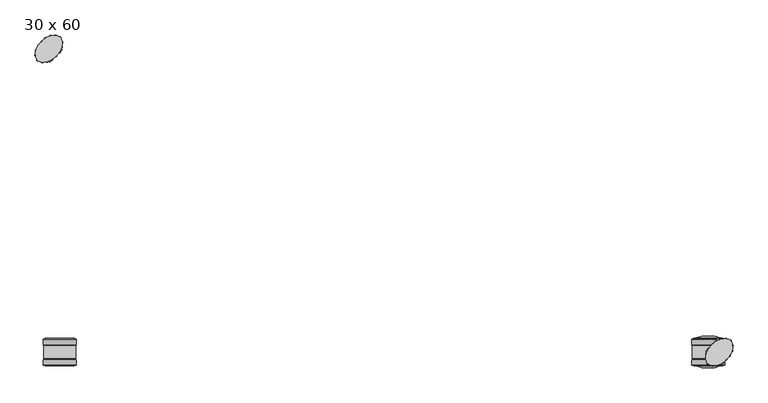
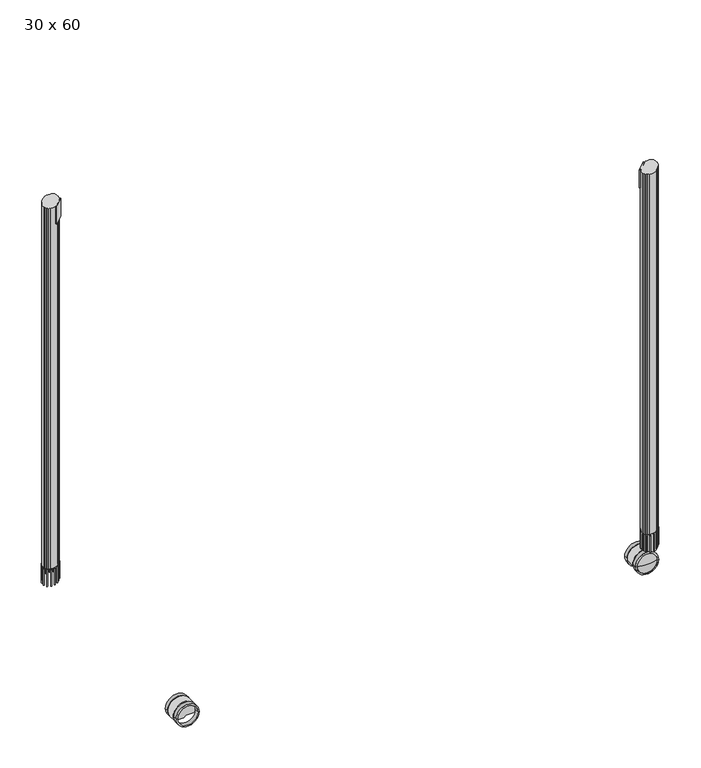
"""IFC4 building model written with IfcOpenShell, lengths in millimetres: furniture geometry, SmithSystem_AM_Desking_Education_Interchange_Student_Activity : 30 x 60."""

from ifc_helpers import new_model, si_unit, point, frame, frame_2d, origin, place, context, project, spatial, polyline, circle_curve, ellipse_curve, trimmed, segment, composite_curve, outline, extrude, source, transform, mapped, element, save
from ifc_brep_helpers import plane_surface, cylinder_surface, revolved_surface, advanced_brep


def furniture_30_x_60_ff9c13ed(model_context):
    return source(origin(), model_context, "Body", "SolidModel", [
        extrude(outline(composite_curve([segment(trimmed(circle_curve(frame_2d((36.1138255, 717.7012908)), 1.27), [point((35.2157999, 716.8032652))], [point((37.0118511, 718.5993164))], False, "CARTESIAN"), True, "CONTINUOUS"), segment(polyline([(37.0118511, 718.5993164), (36.1138255, 717.7012908), (35.2157999, 716.8032652)]), True, "CONTINUOUS")], self_intersect=False)), frame((0.0, 0.0, 67.2639757), z_axis=(0.0, 0.0, 1.0), x_axis=(1.0, 0.0, 0.0)), (0.0, 0.0, 1.0), 52.9554897),
        extrude(outline(composite_curve([segment(trimmed(circle_curve(frame_2d((27.2784407, 678.3403563)), 1.27), [point((28.1764663, 677.4423306))], [point((26.3804151, 679.2383819))], False, "CARTESIAN"), True, "CONTINUOUS"), segment(polyline([(26.3804151, 679.2383819), (27.2784407, 678.3403563), (28.1764663, 677.4423306)]), True, "CONTINUOUS")], self_intersect=False)), frame((0.0, 0.0, 67.2639757), z_axis=(0.0, 0.0, 1.0), x_axis=(1.0, 0.0, 0.0)), (0.0, 0.0, 1.0), 52.9554897),
        extrude(outline(composite_curve([segment(polyline([(76.3727856, 725.63865), (75.47476, 726.5366756), (74.5767344, 727.4347012)]), True, "CONTINUOUS"), segment(trimmed(circle_curve(frame_2d((75.47476, 726.5366756)), 1.27), [point((74.5767344, 727.4347012))], [point((76.3727856, 725.63865))], False, "CARTESIAN"), True, "CONTINUOUS")], self_intersect=False)), frame((0.0, 0.0, 67.2639757), z_axis=(0.0, 0.0, 1.0), x_axis=(1.0, 0.0, 0.0)), (0.0, 0.0, 1.0), 52.9554897),
        extrude(outline(composite_curve([segment(polyline([(66.874417, 730.5560515), (65.6084721, 730.6574596), (64.3425272, 730.7588676)]), True, "CONTINUOUS"), segment(trimmed(circle_curve(frame_2d((65.6084721, 730.6574596)), 1.27), [point((64.3425272, 730.7588676))], [point((66.874417, 730.5560515))], False, "CARTESIAN"), True, "CONTINUOUS")], self_intersect=False)), frame((0.0, 0.0, 67.2639757), z_axis=(0.0, 0.0, 1.0), x_axis=(1.0, 0.0, 0.0)), (0.0, 0.0, 1.0), 52.9554897),
        extrude(outline(composite_curve([segment(polyline([(55.7954927, 730.039674), (54.5655031, 729.7234059), (53.3355135, 729.4071377)]), True, "CONTINUOUS"), segment(trimmed(circle_curve(frame_2d((54.5655031, 729.7234059)), 1.27), [point((53.3355135, 729.4071377))], [point((55.7954927, 730.039674))], False, "CARTESIAN"), True, "CONTINUOUS")], self_intersect=False)), frame((0.0, 0.0, 67.2639757), z_axis=(0.0, 0.0, 1.0), x_axis=(1.0, 0.0, 0.0)), (0.0, 0.0, 1.0), 52.9554897),
        extrude(outline(composite_curve([segment(polyline([(45.4570451, 725.8418329), (44.409403, 725.1239568), (43.3617609, 724.4060807)]), True, "CONTINUOUS"), segment(trimmed(circle_curve(frame_2d((44.409403, 725.1239568)), 1.27), [point((43.3617609, 724.4060807))], [point((45.4570451, 725.8418329))], False, "CARTESIAN"), True, "CONTINUOUS")], self_intersect=False)), frame((0.0, 0.0, 67.2639757), z_axis=(0.0, 0.0, 1.0), x_axis=(1.0, 0.0, 0.0)), (0.0, 0.0, 1.0), 52.9554897),
        extrude(outline(composite_curve([segment(trimmed(circle_curve(frame_2d((23.1576567, 688.2066442)), 1.27), [point((23.2590648, 686.9406993))], [point((23.0562487, 689.4725891))], False, "CARTESIAN"), True, "CONTINUOUS"), segment(polyline([(23.0562487, 689.4725891), (23.1576567, 688.2066442), (23.2590648, 686.9406993)]), True, "CONTINUOUS")], self_intersect=False)), frame((0.0, 0.0, 67.2639757), z_axis=(0.0, 0.0, 1.0), x_axis=(1.0, 0.0, 0.0)), (0.0, 0.0, 1.0), 52.9554897),
        extrude(outline(composite_curve([segment(trimmed(circle_curve(frame_2d((24.0917104, 699.2496132)), 1.27), [point((23.7754423, 698.0196236))], [point((24.4079786, 700.4796028))], False, "CARTESIAN"), True, "CONTINUOUS"), segment(polyline([(24.4079786, 700.4796028), (24.0917104, 699.2496132), (23.7754423, 698.0196236)]), True, "CONTINUOUS")], self_intersect=False)), frame((0.0, 0.0, 67.2639757), z_axis=(0.0, 0.0, 1.0), x_axis=(1.0, 0.0, 0.0)), (0.0, 0.0, 1.0), 52.9554897),
        extrude(outline(composite_curve([segment(trimmed(circle_curve(frame_2d((28.6911595, 709.4057133)), 1.27), [point((27.9732834, 708.3580712))], [point((29.4090356, 710.4533554))], False, "CARTESIAN"), True, "CONTINUOUS"), segment(polyline([(29.4090356, 710.4533554), (28.6911595, 709.4057133), (27.9732834, 708.3580712)]), True, "CONTINUOUS")], self_intersect=False)), frame((0.0, 0.0, 67.2639757), z_axis=(0.0, 0.0, 1.0), x_axis=(1.0, 0.0, 0.0)), (0.0, 0.0, 1.0), 52.9554897),
        extrude(outline(composite_curve([segment(polyline([(65.7413496, 686.2777154), (66.6393752, 687.175741), (67.5374009, 688.0737667)]), True, "CONTINUOUS"), segment(trimmed(circle_curve(frame_2d((66.6393752, 687.175741)), 1.27), [point((67.5374009, 688.0737667))], [point((65.7413496, 686.2777154))], False, "CARTESIAN"), True, "CONTINUOUS")], self_intersect=False)), frame((0.0, 0.0, 67.2639757), z_axis=(0.0, 0.0, 1.0), x_axis=(1.0, 0.0, 0.0)), (0.0, 0.0, 1.0), 52.9554897),
        extrude(outline(composite_curve([segment(trimmed(circle_curve(frame_2d((79.595544, 716.6703877)), 1.27), [point((79.4941359, 717.9363325))], [point((79.696952, 715.4044428))], False, "CARTESIAN"), True, "CONTINUOUS"), segment(polyline([(79.696952, 715.4044428), (79.595544, 716.6703877), (79.4941359, 717.9363325)]), True, "CONTINUOUS")], self_intersect=False)), frame((0.0, 0.0, 67.2639757), z_axis=(0.0, 0.0, 1.0), x_axis=(1.0, 0.0, 0.0)), (0.0, 0.0, 1.0), 52.9554897),
        extrude(outline(composite_curve([segment(trimmed(circle_curve(frame_2d((78.6614903, 705.6274187)), 1.27), [point((78.9777584, 706.8574083))], [point((78.3452221, 704.397429))], False, "CARTESIAN"), True, "CONTINUOUS"), segment(polyline([(78.3452221, 704.397429), (78.6614903, 705.6274187), (78.9777584, 706.8574083)]), True, "CONTINUOUS")], self_intersect=False)), frame((0.0, 0.0, 67.2639757), z_axis=(0.0, 0.0, 1.0), x_axis=(1.0, 0.0, 0.0)), (0.0, 0.0, 1.0), 52.9554897),
        extrude(outline(composite_curve([segment(trimmed(circle_curve(frame_2d((74.0620412, 695.4713185)), 1.27), [point((74.7799173, 696.5189606))], [point((73.3441651, 694.4236765))], False, "CARTESIAN"), True, "CONTINUOUS"), segment(polyline([(73.3441651, 694.4236765), (74.0620412, 695.4713185), (74.7799173, 696.5189606)]), True, "CONTINUOUS")], self_intersect=False)), frame((0.0, 0.0, 67.2639757), z_axis=(0.0, 0.0, 1.0), x_axis=(1.0, 0.0, 0.0)), (0.0, 0.0, 1.0), 52.9554897),
        extrude(outline(composite_curve([segment(polyline([(35.8787838, 674.3209803), (37.1447286, 674.2195723), (38.4106735, 674.1181643)]), True, "CONTINUOUS"), segment(trimmed(circle_curve(frame_2d((37.1447286, 674.2195723)), 1.27), [point((38.4106735, 674.1181643))], [point((35.8787838, 674.3209803))], False, "CARTESIAN"), True, "CONTINUOUS")], self_intersect=False)), frame((0.0, 0.0, 67.2639757), z_axis=(0.0, 0.0, 1.0), x_axis=(1.0, 0.0, 0.0)), (0.0, 0.0, 1.0), 52.9554897),
        extrude(outline(composite_curve([segment(polyline([(46.957708, 674.8373578), (48.1876976, 675.153626), (49.4176872, 675.4698941)]), True, "CONTINUOUS"), segment(trimmed(circle_curve(frame_2d((48.1876976, 675.153626)), 1.27), [point((49.4176872, 675.4698941))], [point((46.957708, 674.8373578))], False, "CARTESIAN"), True, "CONTINUOUS")], self_intersect=False)), frame((0.0, 0.0, 67.2639757), z_axis=(0.0, 0.0, 1.0), x_axis=(1.0, 0.0, 0.0)), (0.0, 0.0, 1.0), 52.9554897),
        extrude(outline(composite_curve([segment(polyline([(57.2961557, 679.035199), (58.3437977, 679.7530751), (59.3914398, 680.4709511)]), True, "CONTINUOUS"), segment(trimmed(circle_curve(frame_2d((58.3437977, 679.7530751)), 1.27), [point((59.3914398, 680.4709511))], [point((57.2961557, 679.035199))], False, "CARTESIAN"), True, "CONTINUOUS")], self_intersect=False)), frame((0.0, 0.0, 67.2639757), z_axis=(0.0, 0.0, 1.0), x_axis=(1.0, 0.0, 0.0)), (0.0, 0.0, 1.0), 52.9554897),
        extrude(outline(composite_curve([segment(trimmed(circle_curve(frame_2d((62.7473847, 698.2519365)), 32.5855406), [point((39.7059279, 721.2933933))], [point((66.7185631, 730.5945895))], False, "CARTESIAN"), True, "CONTINUOUS"), segment(trimmed(circle_curve(frame_2d((64.3208331, 711.0666455)), 19.6745954), [point((66.7185631, 730.5945895))], [point((71.8715833, 729.2346359))], False, "CARTESIAN"), True, "CONTINUOUS"), segment(trimmed(circle_curve(frame_2d((68.4363296, 720.9690127)), 8.9510611), [point((71.8715833, 729.2346359))], [point((74.7656856, 727.2983687))], False, "CARTESIAN"), True, "CONTINUOUS"), segment(polyline([(74.7656856, 727.2983687), (75.5010694, 726.5629849), (76.2364532, 725.8276012)]), True, "CONTINUOUS"), segment(trimmed(circle_curve(frame_2d((69.9070972, 719.4982452)), 8.9510611), [point((76.2364532, 725.8276012))], [point((78.1727203, 722.9334989))], False, "CARTESIAN"), True, "CONTINUOUS"), segment(trimmed(circle_curve(frame_2d((60.0047299, 715.3827486)), 19.6745954), [point((78.1727203, 722.9334989))], [point((79.5326739, 717.7804787))], False, "CARTESIAN"), True, "CONTINUOUS"), segment(trimmed(circle_curve(frame_2d((47.190021, 713.8093002)), 32.5855406), [point((79.5326739, 717.7804787))], [point((70.2314777, 690.7678435))], False, "CARTESIAN"), True, "CONTINUOUS"), segment(polyline([(70.2314777, 690.7678435), (66.6393752, 687.175741), (63.0472728, 683.5836386)]), True, "CONTINUOUS"), segment(trimmed(circle_curve(frame_2d((40.0058161, 706.6250953)), 32.5855406), [point((63.0472728, 683.5836386))], [point((36.0346376, 674.2824424))], False, "CARTESIAN"), True, "CONTINUOUS"), segment(trimmed(circle_curve(frame_2d((38.4323677, 693.8103864)), 19.6745954), [point((36.0346376, 674.2824424))], [point((30.8816174, 675.6423959))], False, "CARTESIAN"), True, "CONTINUOUS"), segment(trimmed(circle_curve(frame_2d((34.3168711, 683.9080191)), 8.9510611), [point((30.8816174, 675.6423959))], [point((27.9875151, 677.5786631))], False, "CARTESIAN"), True, "CONTINUOUS"), segment(polyline([(27.9875151, 677.5786631), (27.2521313, 678.3140469), (26.5167476, 679.0494307)]), True, "CONTINUOUS"), segment(trimmed(circle_curve(frame_2d((32.8461036, 685.3787867)), 8.9510611), [point((26.5167476, 679.0494307))], [point((24.5804804, 681.943533))], False, "CARTESIAN"), True, "CONTINUOUS"), segment(trimmed(circle_curve(frame_2d((42.7484708, 689.4942832)), 19.6745954), [point((24.5804804, 681.943533))], [point((23.2205268, 687.0965532))], False, "CARTESIAN"), True, "CONTINUOUS"), segment(trimmed(circle_curve(frame_2d((55.5631798, 691.0677316)), 32.5855406), [point((23.2205268, 687.0965532))], [point((32.521723, 714.1091884))], False, "CARTESIAN"), True, "CONTINUOUS"), segment(polyline([(32.521723, 714.1091884), (36.1138255, 717.7012908), (39.7059279, 721.2933933)]), True, "CONTINUOUS")], self_intersect=False)), frame((0.0, 0.0, 122.9260451), z_axis=(0.0, 0.0, 1.0), x_axis=(1.0, 0.0, 0.0)), (0.0, 0.0, 1.0), 1140.1156939),
        extrude(outline(polyline([(50.0797748, 676.8390473), (76.921403, 703.6806755), (80.2662632, 700.3358152), (53.4246351, 673.4941871), (50.0797748, 676.8390473)])), frame((0.0, 0.0, 1207.0152169), z_axis=(0.0, 0.0, 1.0), x_axis=(1.0, 0.0, 0.0)), (0.0, 0.0, 1.0), 56.0265221),
        advanced_brep(
        [(1479.3682807, 75.4828432, 35.017382), (1479.3682807, 88.7241133, 35.017382), (1418.7629669, 88.7241133, 35.017382), (1418.7629669, 75.4828432, 35.017382), (1483.6326573, 75.4828432, 35.017382), (1414.4985903, 75.4828432, 35.017382), (1483.6326573, 87.2525266, 35.017382), (1414.4985903, 87.2525266, 35.017382)],
        [
            (0, 1),
            (1, 2, circle_curve(frame((1449.0656238, 88.7241133, 35.017382), z_axis=(0.0, 1.0, 0.0), x_axis=(-1.0000000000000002, 0.0, 0.0)), 30.3026569)),
            (2, 3),
            (3, 0, circle_curve(frame((1449.0656238, 75.4828432, 35.017382), z_axis=(0.0, -1.0, 0.0), x_axis=(-1.0000000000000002, 0.0, 0.0)), 30.3026569)),
            (2, 1, circle_curve(frame((1449.0656238, 88.7241133, 35.017382), z_axis=(0.0, 1.0, 0.0), x_axis=(-1.0000000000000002, 0.0, 0.0)), 30.3026569)),
            (0, 3, circle_curve(frame((1449.0656238, 75.4828432, 35.017382), z_axis=(0.0, -1.0, 0.0), x_axis=(-1.0000000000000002, 0.0, 0.0)), 30.3026569)),
            (4, 0),
            (3, 5),
            (5, 4, circle_curve(frame((1449.0656238, 75.4828432, 35.017382), z_axis=(0.0, -1.0, 0.0), x_axis=(-1.0000000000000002, 0.0, 0.0)), 34.5670335)),
            (4, 5, circle_curve(frame((1449.0656238, 75.4828432, 35.017382), z_axis=(0.0, -1.0, 0.0), x_axis=(-1.0000000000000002, 0.0, 0.0)), 34.5670335)),
            (6, 4),
            (5, 7),
            (7, 6, circle_curve(frame((1449.0656238, 87.2525266, 35.017382), z_axis=(0.0, -1.0, 0.0), x_axis=(-1.0000000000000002, 0.0, 0.0)), 34.5670335)),
            (6, 7, circle_curve(frame((1449.0656238, 87.2525266, 35.017382), z_axis=(0.0, -1.0, 0.0), x_axis=(-1.0000000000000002, 0.0, 0.0)), 34.5670335)),
            (1, 6),
            (7, 2),
        ],
        [
            revolved_surface(polyline([(1418.7629668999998, 88.7241133, 35.017382), (1418.7629668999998, 75.4828432, 35.017382)]), (1449.0656238, 75.4828432, 35.017382), (0.0, 1.0, 0.0)),
            plane_surface(frame((1449.0656238, 75.4828432, 35.017382), z_axis=(0.0, -1.0, 0.0), x_axis=(-1.0, 0.0, 0.0))),
            cylinder_surface(frame((1449.0656238, 75.4828432, 35.017382), z_axis=(0.0, 1.0, 0.0), x_axis=(-1.0000000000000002, 0.0, 0.0)), 34.5670335),
            revolved_surface(polyline([(1414.4985903, 87.2525266, 35.017382), (1418.7629669, 88.7241133, 35.017382)]), (1449.0656238, 75.4828432, 35.017382), (0.0, 1.0, 0.0)),
        ],
        [
            (0, [[1, 2, 3, 4]]),
            (0, [[-3, 5, -1, 6]]),
            (1, [[7, -4, 8, 9]]),
            (1, [[-8, -6, -7, 10]]),
            (2, [[11, -9, 12, 13]]),
            (2, [[-12, -10, -11, 14]]),
            (3, [[15, -13, 16, -2]]),
            (3, [[-16, -14, -15, -5]]),
        ],
    ),
        advanced_brep(
        [(1483.6326573, 31.8704415, 35.017382), (1479.3682807, 30.3988548, 35.017382), (1418.7629669, 30.3988548, 35.017382), (1414.4985903, 31.8704415, 35.017382), (1483.6326573, 43.6401249, 35.017382), (1414.4985903, 43.6401249, 35.017382), (1479.3682807, 43.6401249, 35.017382), (1418.7629669, 43.6401249, 35.017382)],
        [
            (0, 1),
            (1, 2, circle_curve(frame((1449.0656238, 30.3988548, 35.017382), z_axis=(0.0, 1.0, 0.0), x_axis=(-1.0000000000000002, 0.0, 0.0)), 30.3026569)),
            (2, 3),
            (3, 0, circle_curve(frame((1449.0656238, 31.8704415, 35.017382), z_axis=(0.0, -1.0, 0.0), x_axis=(-1.0000000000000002, 0.0, 0.0)), 34.5670335)),
            (2, 1, circle_curve(frame((1449.0656238, 30.3988548, 35.017382), z_axis=(0.0, 1.0, 0.0), x_axis=(-1.0000000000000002, 0.0, 0.0)), 30.3026569)),
            (0, 3, circle_curve(frame((1449.0656238, 31.8704415, 35.017382), z_axis=(0.0, -1.0, 0.0), x_axis=(-1.0000000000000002, 0.0, 0.0)), 34.5670335)),
            (4, 0),
            (3, 5),
            (5, 4, circle_curve(frame((1449.0656238, 43.6401249, 35.017382), z_axis=(0.0, -1.0, 0.0), x_axis=(-1.0000000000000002, 0.0, 0.0)), 34.5670335)),
            (4, 5, circle_curve(frame((1449.0656238, 43.6401249, 35.017382), z_axis=(0.0, -1.0, 0.0), x_axis=(-1.0000000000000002, 0.0, 0.0)), 34.5670335)),
            (6, 4),
            (5, 7),
            (7, 6, circle_curve(frame((1449.0656238, 43.6401249, 35.017382), z_axis=(0.0, -1.0, 0.0), x_axis=(-1.0000000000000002, 0.0, 0.0)), 30.3026569)),
            (6, 7, circle_curve(frame((1449.0656238, 43.6401249, 35.017382), z_axis=(0.0, -1.0, 0.0), x_axis=(-1.0000000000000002, 0.0, 0.0)), 30.3026569)),
            (1, 6),
            (7, 2),
        ],
        [
            revolved_surface(polyline([(1418.7629669, 30.3988548, 35.017382), (1414.4985903, 31.8704415, 35.017382)]), (1449.0656238, 75.4828432, 35.017382), (0.0, 1.0, 0.0)),
            cylinder_surface(frame((1449.0656238, 75.4828432, 35.017382), z_axis=(0.0, 1.0, 0.0), x_axis=(-1.0000000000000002, 0.0, 0.0)), 34.5670335),
            plane_surface(frame((1449.0656238, 43.6401249, 35.017382), z_axis=(0.0, 1.0, 0.0), x_axis=(-1.0, 0.0, 0.0))),
            revolved_surface(polyline([(1418.7629668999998, 43.6401249, 35.017382), (1418.7629668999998, 30.398854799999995, 35.017382)]), (1449.0656238, 75.4828432, 35.017382), (0.0, 1.0, 0.0)),
        ],
        [
            (0, [[1, 2, 3, 4]]),
            (0, [[-3, 5, -1, 6]]),
            (1, [[7, -4, 8, 9]]),
            (1, [[-8, -6, -7, 10]]),
            (2, [[11, -9, 12, 13]]),
            (2, [[-12, -10, -11, 14]]),
            (3, [[15, -13, 16, -2]]),
            (3, [[-16, -14, -15, -5]]),
        ],
    ),
        extrude(outline(composite_curve([segment(polyline([(19.2150301, 1452.4697558), (19.2150301, 1479.476395)]), True, "CONTINUOUS"), segment(trimmed(circle_curve(frame_2d((35.017382, 1449.0656238)), 34.2714069), [point((19.2150301, 1479.476395))], [point((30.4371053, 1415.1016665))], False, "CARTESIAN"), True, "CONTINUOUS"), segment(polyline([(30.4371053, 1415.1016665), (25.5146264, 1423.9644339), (25.5146264, 1446.1701594), (19.2150301, 1452.4697558)]), True, "CONTINUOUS")], self_intersect=False)), frame((0.0, 46.7652481, 0.0), z_axis=(0.0, 1.0, 0.0), x_axis=(0.0, 0.0, 1.0)), (0.0, 0.0, 1.0), 26.9875),
        advanced_brep(
        [(1479.3682807, 75.4828432, 35.017382), (1449.0656238, 75.4828432, 35.017382), (1418.7629669, 75.4828432, 35.017382), (1449.0656238, 93.8056302, 35.017382), (1479.3682807, 88.7241133, 35.017382), (1418.7629669, 88.7241133, 35.017382)],
        [
            (0, 1),
            (1, 2),
            (2, 0, circle_curve(frame((1449.0656238, 75.4828432, 35.017382), z_axis=(0.0, -1.0, 0.0), x_axis=(-1.0000000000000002, 0.0, 0.0)), 30.3026569)),
            (0, 2, circle_curve(frame((1449.0656238, 75.4828432, 35.017382), z_axis=(0.0, -1.0, 0.0), x_axis=(-1.0000000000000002, 0.0, 0.0)), 30.3026569)),
            (3, 4, circle_curve(frame((1449.0656238, 0.9128138, 35.017382), z_axis=(0.0, 0.0, -1.0000000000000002), x_axis=(0.0, -1.0, 0.0)), 92.8928164)),
            (4, 5, circle_curve(frame((1449.0656238, 88.7241133, 35.017382), z_axis=(0.0, 1.0, 0.0), x_axis=(-1.0000000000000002, 0.0, 0.0)), 30.3026569)),
            (5, 3, circle_curve(frame((1449.0656238, 0.9128138, 35.017382), z_axis=(0.0, 0.0, -1.0000000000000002), x_axis=(0.0, -1.0, 0.0)), 92.8928164)),
            (5, 4, circle_curve(frame((1449.0656238, 88.7241133, 35.017382), z_axis=(0.0, 1.0, 0.0), x_axis=(-1.0000000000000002, 0.0, 0.0)), 30.3026569)),
            (4, 0),
            (2, 5),
        ],
        [
            plane_surface(frame((1449.0656238, 75.4828432, 35.017382), z_axis=(0.0, -1.0, 0.0), x_axis=(-1.0, 0.0, 0.0))),
            revolved_surface(trimmed(ellipse_curve(frame((1449.0656238, 0.9128138, 35.017382), z_axis=(0.0, 0.0, -1.0000000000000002), x_axis=(0.0, -1.0, 0.0)), 92.8928164, 92.8928164), [point((1418.7629669, 88.7241133, 35.017382))], [point((1449.0656238, 93.8056302, 35.017382))], True, "CARTESIAN"), (1449.0656238, 75.4828432, 35.017382), (0.0, 1.0, 0.0)),
            cylinder_surface(frame((1449.0656238, 75.4828432, 35.017382), z_axis=(0.0, 1.0, 0.0), x_axis=(-1.0000000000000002, 0.0, 0.0)), 30.3026569),
        ],
        [
            (0, [[1, 2, 3]]),
            (0, [[-2, -1, 4]]),
            (1, [[5, 6, 7]]),
            (1, [[-7, 8, -5]]),
            (2, [[9, -3, 10, -6]]),
            (2, [[-10, -4, -9, -8]]),
        ],
    ),
        advanced_brep(
        [(1479.3682807, 44.8805061, 35.017382), (1479.3682807, 31.639236, 35.017382), (1418.7629669, 31.639236, 35.017382), (1418.7629669, 44.8805061, 35.017382), (1449.0656238, 26.5577191, 35.017382), (1449.0656238, 44.8805061, 35.017382)],
        [
            (0, 1),
            (1, 2, circle_curve(frame((1449.0656238, 31.639236, 35.017382), z_axis=(0.0, 1.0, 0.0), x_axis=(-1.0000000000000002, 0.0, 0.0)), 30.3026569)),
            (2, 3),
            (3, 0, circle_curve(frame((1449.0656238, 44.8805061, 35.017382), z_axis=(0.0, -1.0, 0.0), x_axis=(-1.0000000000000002, 0.0, 0.0)), 30.3026569)),
            (2, 1, circle_curve(frame((1449.0656238, 31.639236, 35.017382), z_axis=(0.0, 1.0, 0.0), x_axis=(-1.0000000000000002, 0.0, 0.0)), 30.3026569)),
            (0, 3, circle_curve(frame((1449.0656238, 44.8805061, 35.017382), z_axis=(0.0, -1.0, 0.0), x_axis=(-1.0000000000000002, 0.0, 0.0)), 30.3026569)),
            (1, 4, circle_curve(frame((1449.0656238, 119.4505355, 35.017382), z_axis=(0.0, 0.0, -1.0000000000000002), x_axis=(0.0, -1.0, 0.0)), 92.8928164)),
            (4, 2, circle_curve(frame((1449.0656238, 119.4505355, 35.017382), z_axis=(0.0, 0.0, -1.0000000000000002), x_axis=(0.0, -1.0, 0.0)), 92.8928164)),
            (5, 0),
            (3, 5),
        ],
        [
            cylinder_surface(frame((1449.0656238, 75.4828432, 35.017382), z_axis=(0.0, 1.0, 0.0), x_axis=(-1.0000000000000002, 0.0, 0.0)), 30.3026569),
            revolved_surface(trimmed(ellipse_curve(frame((1449.0656238, 119.4505355, 35.017382), z_axis=(0.0, 0.0, -1.0000000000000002), x_axis=(0.0, -1.0, 0.0)), 92.8928164, 92.8928164), [point((1449.0656238, 26.5577191, 35.017382))], [point((1418.7629669, 31.639236, 35.017382))], True, "CARTESIAN"), (1449.0656238, 75.4828432, 35.017382), (0.0, 1.0, 0.0)),
            plane_surface(frame((1449.0656238, 44.8805061, 35.017382), z_axis=(0.0, 1.0, 0.0), x_axis=(-1.0, 0.0, 0.0))),
        ],
        [
            (0, [[1, 2, 3, 4]]),
            (0, [[-3, 5, -1, 6]]),
            (1, [[7, 8, -2]]),
            (1, [[-8, -7, -5]]),
            (2, [[9, -4, 10]]),
            (2, [[-10, -6, -9]]),
        ],
    ),
        advanced_brep(
        [(1472.3098504, 59.5614841, 82.55), (1487.4315397, 44.4397948, 82.55), (1457.1881611, 74.6831734, 82.55), (1479.1455485, 52.725786, 44.141232), (1472.3098504, 59.5614841, 44.141232), (1465.4741524, 66.3971821, 44.141232), (1479.1455485, 52.725786, 70.5739), (1465.4741524, 66.3971821, 70.5739), (1475.4087581, 56.4625764, 70.5739), (1469.2109428, 62.6603917, 70.5739), (1475.4087581, 56.4625764, 72.4789), (1469.2109428, 62.6603917, 72.4789), (1479.1455485, 52.725786, 72.4789), (1465.4741524, 66.3971821, 72.4789), (1479.1455485, 52.725786, 77.5589), (1465.4741524, 66.3971821, 77.5589), (1487.4315397, 44.4397948, 77.5589), (1457.1881611, 74.6831734, 77.5589)],
        [
            (0, 1),
            (1, 2, circle_curve(frame((1472.3098504, 59.5614841, 82.55), z_axis=(0.0, 0.0, 1.0), x_axis=(-0.7071067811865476, 0.7071067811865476, 0.0)), 21.3852981)),
            (2, 0),
            (2, 1, circle_curve(frame((1472.3098504, 59.5614841, 82.55), z_axis=(0.0, 0.0, 1.0), x_axis=(-0.7071067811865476, 0.7071067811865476, 0.0)), 21.3852981)),
            (3, 4),
            (4, 5),
            (5, 3, circle_curve(frame((1472.3098504, 59.5614841, 44.141232), z_axis=(0.0, 0.0, -1.0), x_axis=(-0.7071067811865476, 0.7071067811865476, 0.0)), 9.6671369)),
            (3, 5, circle_curve(frame((1472.3098504, 59.5614841, 44.141232), z_axis=(0.0, 0.0, -1.0), x_axis=(-0.7071067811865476, 0.7071067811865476, 0.0)), 9.6671369)),
            (6, 3),
            (5, 7),
            (7, 6, circle_curve(frame((1472.3098504, 59.5614841, 70.5739), z_axis=(0.0, 0.0, -1.0), x_axis=(-0.7071067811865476, 0.7071067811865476, 0.0)), 9.6671369)),
            (6, 7, circle_curve(frame((1472.3098504, 59.5614841, 70.5739), z_axis=(0.0, 0.0, -1.0), x_axis=(-0.7071067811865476, 0.7071067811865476, 0.0)), 9.6671369)),
            (8, 6),
            (7, 9),
            (9, 8, circle_curve(frame((1472.3098504, 59.5614841, 70.5739), z_axis=(0.0, 0.0, -1.0), x_axis=(-0.7071067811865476, 0.7071067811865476, 0.0)), 4.3825172)),
            (8, 9, circle_curve(frame((1472.3098504, 59.5614841, 70.5739), z_axis=(0.0, 0.0, -1.0), x_axis=(-0.7071067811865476, 0.7071067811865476, 0.0)), 4.3825172)),
            (10, 8),
            (9, 11),
            (11, 10, circle_curve(frame((1472.3098504, 59.5614841, 72.4789), z_axis=(0.0, 0.0, -1.0), x_axis=(-0.7071067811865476, 0.7071067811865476, 0.0)), 4.3825172)),
            (10, 11, circle_curve(frame((1472.3098504, 59.5614841, 72.4789), z_axis=(0.0, 0.0, -1.0), x_axis=(-0.7071067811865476, 0.7071067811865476, 0.0)), 4.3825172)),
            (12, 10),
            (11, 13),
            (13, 12, circle_curve(frame((1472.3098504, 59.5614841, 72.4789), z_axis=(0.0, 0.0, -1.0), x_axis=(-0.7071067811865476, 0.7071067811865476, 0.0)), 9.6671369)),
            (12, 13, circle_curve(frame((1472.3098504, 59.5614841, 72.4789), z_axis=(0.0, 0.0, -1.0), x_axis=(-0.7071067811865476, 0.7071067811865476, 0.0)), 9.6671369)),
            (14, 12),
            (13, 15),
            (15, 14, circle_curve(frame((1472.3098504, 59.5614841, 77.5589), z_axis=(0.0, 0.0, -1.0), x_axis=(-0.7071067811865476, 0.7071067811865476, 0.0)), 9.6671369)),
            (14, 15, circle_curve(frame((1472.3098504, 59.5614841, 77.5589), z_axis=(0.0, 0.0, -1.0), x_axis=(-0.7071067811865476, 0.7071067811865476, 0.0)), 9.6671369)),
            (16, 14),
            (15, 17),
            (17, 16, circle_curve(frame((1472.3098504, 59.5614841, 77.5589), z_axis=(0.0, 0.0, -1.0), x_axis=(-0.7071067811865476, 0.7071067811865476, 0.0)), 21.3852981)),
            (16, 17, circle_curve(frame((1472.3098504, 59.5614841, 77.5589), z_axis=(0.0, 0.0, -1.0), x_axis=(-0.7071067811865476, 0.7071067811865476, 0.0)), 21.3852981)),
            (1, 16),
            (17, 2),
        ],
        [
            plane_surface(frame((1472.3098504, 59.5614841, 82.55), z_axis=(0.0, 0.0, 1.0000000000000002), x_axis=(-0.7071067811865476, 0.7071067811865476, 0.0))),
            plane_surface(frame((1472.3098504, 59.5614841, 44.141232), z_axis=(0.0, 0.0, -1.0000000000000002), x_axis=(-0.7071067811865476, 0.7071067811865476, 0.0))),
            cylinder_surface(frame((1472.3098504, 59.5614841, 56.841232), z_axis=(0.0, 0.0, 1.0), x_axis=(-0.7071067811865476, 0.7071067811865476, 0.0)), 9.6671369),
            plane_surface(frame((1472.3098504, 59.5614841, 70.5739), z_axis=(0.0, 0.0, 1.0000000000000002), x_axis=(-0.7071067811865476, 0.7071067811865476, 0.0))),
            cylinder_surface(frame((1472.3098504, 59.5614841, 56.841232), z_axis=(0.0, 0.0, 1.0), x_axis=(-0.7071067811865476, 0.7071067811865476, 0.0)), 4.3825172),
            plane_surface(frame((1472.3098504, 59.5614841, 72.4789), z_axis=(0.0, 0.0, -1.0000000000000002), x_axis=(-0.7071067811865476, 0.7071067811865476, 0.0))),
            plane_surface(frame((1472.3098504, 59.5614841, 77.5589), z_axis=(0.0, 0.0, -1.0000000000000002), x_axis=(-0.7071067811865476, 0.7071067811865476, 0.0))),
            cylinder_surface(frame((1472.3098504, 59.5614841, 56.841232), z_axis=(0.0, 0.0, 1.0), x_axis=(-0.7071067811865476, 0.7071067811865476, 0.0)), 21.3852981),
        ],
        [
            (0, [[1, 2, 3]]),
            (0, [[-3, 4, -1]]),
            (1, [[5, 6, 7]]),
            (1, [[-6, -5, 8]]),
            (2, [[9, -7, 10, 11]]),
            (2, [[-10, -8, -9, 12]]),
            (3, [[13, -11, 14, 15]]),
            (3, [[-14, -12, -13, 16]]),
            (4, [[17, -15, 18, 19]]),
            (4, [[-18, -16, -17, 20]]),
            (5, [[21, -19, 22, 23]]),
            (5, [[-22, -20, -21, 24]]),
            (2, [[25, -23, 26, 27]]),
            (2, [[-26, -24, -25, 28]]),
            (6, [[29, -27, 30, 31]]),
            (6, [[-30, -28, -29, 32]]),
            (7, [[33, -31, 34, -2]]),
            (7, [[-34, -32, -33, -4]]),
        ],
    ),
        extrude(outline(composite_curve([segment(polyline([(1453.4549731, 71.2321565), (1457.0470756, 74.824259), (1460.639178, 78.4163614)]), True, "CONTINUOUS"), segment(trimmed(circle_curve(frame_2d((1483.6806347, 55.3749047)), 32.5855406), [point((1460.639178, 78.4163614))], [point((1487.6518132, 87.7175576))], False, "CARTESIAN"), True, "CONTINUOUS"), segment(trimmed(circle_curve(frame_2d((1485.2540831, 68.1896136)), 19.6745954), [point((1487.6518132, 87.7175576))], [point((1492.8048334, 86.3576041))], False, "CARTESIAN"), True, "CONTINUOUS"), segment(trimmed(circle_curve(frame_2d((1489.3695797, 78.0919809)), 8.9510611), [point((1492.8048334, 86.3576041))], [point((1495.6989357, 84.4213369))], False, "CARTESIAN"), True, "CONTINUOUS"), segment(polyline([(1495.6989357, 84.4213369), (1496.4343195, 83.6859531), (1497.1697032, 82.9505693)]), True, "CONTINUOUS"), segment(trimmed(circle_curve(frame_2d((1490.8403472, 76.6212133)), 8.9510611), [point((1497.1697032, 82.9505693))], [point((1499.1059704, 80.056467))], False, "CARTESIAN"), True, "CONTINUOUS"), segment(trimmed(circle_curve(frame_2d((1480.93798, 72.5057168)), 19.6745954), [point((1499.1059704, 80.056467))], [point((1500.465924, 74.9034468))], False, "CARTESIAN"), True, "CONTINUOUS"), segment(trimmed(circle_curve(frame_2d((1468.123271, 70.9322684)), 32.5855406), [point((1500.465924, 74.9034468))], [point((1491.1647278, 47.8908116))], False, "CARTESIAN"), True, "CONTINUOUS"), segment(polyline([(1491.1647278, 47.8908116), (1487.5726253, 44.2987092), (1483.9805229, 40.7066067)]), True, "CONTINUOUS"), segment(trimmed(circle_curve(frame_2d((1460.9390661, 63.7480635)), 32.5855406), [point((1483.9805229, 40.7066067))], [point((1456.9678877, 31.4054105))], False, "CARTESIAN"), True, "CONTINUOUS"), segment(trimmed(circle_curve(frame_2d((1459.3656177, 50.9333545)), 19.6745954), [point((1456.9678877, 31.4054105))], [point((1451.8148675, 32.7653641))], False, "CARTESIAN"), True, "CONTINUOUS"), segment(trimmed(circle_curve(frame_2d((1455.2501212, 41.0309873)), 8.9510611), [point((1451.8148675, 32.7653641))], [point((1448.9207652, 34.7016313))], False, "CARTESIAN"), True, "CONTINUOUS"), segment(polyline([(1448.9207652, 34.7016313), (1448.1853814, 35.4370151), (1447.4499976, 36.1723988)]), True, "CONTINUOUS"), segment(trimmed(circle_curve(frame_2d((1453.7793536, 42.5017548)), 8.9510611), [point((1447.4499976, 36.1723988))], [point((1445.5137305, 39.0665011))], False, "CARTESIAN"), True, "CONTINUOUS"), segment(trimmed(circle_curve(frame_2d((1463.6817209, 46.6172514)), 19.6745954), [point((1445.5137305, 39.0665011))], [point((1444.1537769, 44.2195213))], False, "CARTESIAN"), True, "CONTINUOUS"), segment(trimmed(circle_curve(frame_2d((1476.4964298, 48.1906998)), 32.5855406), [point((1444.1537769, 44.2195213))], [point((1453.4549731, 71.2321565))], False, "CARTESIAN"), True, "CONTINUOUS")], self_intersect=False)), frame((0.0, 0.0, 63.4997351), z_axis=(0.0, 0.0, 1.0), x_axis=(1.0, 0.0, 0.0)), (0.0, 0.0, 1.0), 59.42631),
        extrude(outline(composite_curve([segment(trimmed(circle_curve(frame_2d((1487.5726253, 44.2987092)), 1.27), [point((1488.4706509, 45.1967348))], [point((1486.6745997, 43.4006836))], False, "CARTESIAN"), True, "CONTINUOUS"), segment(polyline([(1486.6745997, 43.4006836), (1487.5726253, 44.2987092), (1488.4706509, 45.1967348)]), True, "CONTINUOUS")], self_intersect=False)), frame((0.0, 0.0, 67.2639757), z_axis=(0.0, 0.0, 1.0), x_axis=(1.0, 0.0, 0.0)), (0.0, 0.0, 1.0), 52.9554897),
        extrude(outline(composite_curve([segment(trimmed(circle_curve(frame_2d((1496.4080101, 83.6596437)), 1.27), [point((1495.5099845, 84.5576694))], [point((1497.3060357, 82.7616181))], False, "CARTESIAN"), True, "CONTINUOUS"), segment(polyline([(1497.3060357, 82.7616181), (1496.4080101, 83.6596437), (1495.5099845, 84.5576694)]), True, "CONTINUOUS")], self_intersect=False)), frame((0.0, 0.0, 67.2639757), z_axis=(0.0, 0.0, 1.0), x_axis=(1.0, 0.0, 0.0)), (0.0, 0.0, 1.0), 52.9554897),
        extrude(outline(composite_curve([segment(polyline([(1447.3136652, 36.36135), (1448.2116908, 35.4633244), (1449.1097164, 34.5652988)]), True, "CONTINUOUS"), segment(trimmed(circle_curve(frame_2d((1448.2116908, 35.4633244)), 1.27), [point((1449.1097164, 34.5652988))], [point((1447.3136652, 36.36135))], False, "CARTESIAN"), True, "CONTINUOUS")], self_intersect=False)), frame((0.0, 0.0, 67.2639757), z_axis=(0.0, 0.0, 1.0), x_axis=(1.0, 0.0, 0.0)), (0.0, 0.0, 1.0), 52.9554897),
        extrude(outline(composite_curve([segment(polyline([(1456.8120338, 31.4439485), (1458.0779787, 31.3425404), (1459.3439236, 31.2411324)]), True, "CONTINUOUS"), segment(trimmed(circle_curve(frame_2d((1458.0779787, 31.3425404)), 1.27), [point((1459.3439236, 31.2411324))], [point((1456.8120338, 31.4439485))], False, "CARTESIAN"), True, "CONTINUOUS")], self_intersect=False)), frame((0.0, 0.0, 67.2639757), z_axis=(0.0, 0.0, 1.0), x_axis=(1.0, 0.0, 0.0)), (0.0, 0.0, 1.0), 52.9554897),
        extrude(outline(composite_curve([segment(polyline([(1467.8909581, 31.960326), (1469.1209477, 32.2765941), (1470.3509373, 32.5928623)]), True, "CONTINUOUS"), segment(trimmed(circle_curve(frame_2d((1469.1209477, 32.2765941)), 1.27), [point((1470.3509373, 32.5928623))], [point((1467.8909581, 31.960326))], False, "CARTESIAN"), True, "CONTINUOUS")], self_intersect=False)), frame((0.0, 0.0, 67.2639757), z_axis=(0.0, 0.0, 1.0), x_axis=(1.0, 0.0, 0.0)), (0.0, 0.0, 1.0), 52.9554897),
        extrude(outline(composite_curve([segment(polyline([(1478.2294057, 36.1581671), (1479.2770478, 36.8760432), (1480.3246899, 37.5939193)]), True, "CONTINUOUS"), segment(trimmed(circle_curve(frame_2d((1479.2770478, 36.8760432)), 1.27), [point((1480.3246899, 37.5939193))], [point((1478.2294057, 36.1581671))], False, "CARTESIAN"), True, "CONTINUOUS")], self_intersect=False)), frame((0.0, 0.0, 67.2639757), z_axis=(0.0, 0.0, 1.0), x_axis=(1.0, 0.0, 0.0)), (0.0, 0.0, 1.0), 52.9554897),
        extrude(outline(composite_curve([segment(trimmed(circle_curve(frame_2d((1500.5287941, 73.7933558)), 1.27), [point((1500.427386, 75.0593007))], [point((1500.6302021, 72.5274109))], False, "CARTESIAN"), True, "CONTINUOUS"), segment(polyline([(1500.6302021, 72.5274109), (1500.5287941, 73.7933558), (1500.427386, 75.0593007)]), True, "CONTINUOUS")], self_intersect=False)), frame((0.0, 0.0, 67.2639757), z_axis=(0.0, 0.0, 1.0), x_axis=(1.0, 0.0, 0.0)), (0.0, 0.0, 1.0), 52.9554897),
        extrude(outline(composite_curve([segment(trimmed(circle_curve(frame_2d((1499.5947404, 62.7503868)), 1.27), [point((1499.9110085, 63.9803764))], [point((1499.2784722, 61.5203972))], False, "CARTESIAN"), True, "CONTINUOUS"), segment(polyline([(1499.2784722, 61.5203972), (1499.5947404, 62.7503868), (1499.9110085, 63.9803764)]), True, "CONTINUOUS")], self_intersect=False)), frame((0.0, 0.0, 67.2639757), z_axis=(0.0, 0.0, 1.0), x_axis=(1.0, 0.0, 0.0)), (0.0, 0.0, 1.0), 52.9554897),
        extrude(outline(composite_curve([segment(trimmed(circle_curve(frame_2d((1494.9952913, 52.5942867)), 1.27), [point((1495.7131674, 53.6419288))], [point((1494.2774152, 51.5466446))], False, "CARTESIAN"), True, "CONTINUOUS"), segment(polyline([(1494.2774152, 51.5466446), (1494.9952913, 52.5942867), (1495.7131674, 53.6419288)]), True, "CONTINUOUS")], self_intersect=False)), frame((0.0, 0.0, 67.2639757), z_axis=(0.0, 0.0, 1.0), x_axis=(1.0, 0.0, 0.0)), (0.0, 0.0, 1.0), 52.9554897),
        extrude(outline(composite_curve([segment(polyline([(1457.9451012, 75.7222846), (1457.0470756, 74.824259), (1456.1490499, 73.9262333)]), True, "CONTINUOUS"), segment(trimmed(circle_curve(frame_2d((1457.0470756, 74.824259)), 1.27), [point((1456.1490499, 73.9262333))], [point((1457.9451012, 75.7222846))], False, "CARTESIAN"), True, "CONTINUOUS")], self_intersect=False)), frame((0.0, 0.0, 67.2639757), z_axis=(0.0, 0.0, 1.0), x_axis=(1.0, 0.0, 0.0)), (0.0, 0.0, 1.0), 52.9554897),
        extrude(outline(composite_curve([segment(trimmed(circle_curve(frame_2d((1444.0909068, 45.3296123)), 1.27), [point((1444.1923149, 44.0636675))], [point((1443.9894988, 46.5955572))], False, "CARTESIAN"), True, "CONTINUOUS"), segment(polyline([(1443.9894988, 46.5955572), (1444.0909068, 45.3296123), (1444.1923149, 44.0636675)]), True, "CONTINUOUS")], self_intersect=False)), frame((0.0, 0.0, 67.2639757), z_axis=(0.0, 0.0, 1.0), x_axis=(1.0, 0.0, 0.0)), (0.0, 0.0, 1.0), 52.9554897),
        extrude(outline(composite_curve([segment(trimmed(circle_curve(frame_2d((1445.0249605, 56.3725813)), 1.27), [point((1444.7086924, 55.1425917))], [point((1445.3412287, 57.602571))], False, "CARTESIAN"), True, "CONTINUOUS"), segment(polyline([(1445.3412287, 57.602571), (1445.0249605, 56.3725813), (1444.7086924, 55.1425917)]), True, "CONTINUOUS")], self_intersect=False)), frame((0.0, 0.0, 67.2639757), z_axis=(0.0, 0.0, 1.0), x_axis=(1.0, 0.0, 0.0)), (0.0, 0.0, 1.0), 52.9554897),
        extrude(outline(composite_curve([segment(trimmed(circle_curve(frame_2d((1449.6244096, 66.5286815)), 1.27), [point((1448.9065335, 65.4810394))], [point((1450.3422857, 67.5763235))], False, "CARTESIAN"), True, "CONTINUOUS"), segment(polyline([(1450.3422857, 67.5763235), (1449.6244096, 66.5286815), (1448.9065335, 65.4810394)]), True, "CONTINUOUS")], self_intersect=False)), frame((0.0, 0.0, 67.2639757), z_axis=(0.0, 0.0, 1.0), x_axis=(1.0, 0.0, 0.0)), (0.0, 0.0, 1.0), 52.9554897),
        extrude(outline(composite_curve([segment(polyline([(1487.807667, 87.6790197), (1486.5417222, 87.7804277), (1485.2757773, 87.8818357)]), True, "CONTINUOUS"), segment(trimmed(circle_curve(frame_2d((1486.5417222, 87.7804277)), 1.27), [point((1485.2757773, 87.8818357))], [point((1487.807667, 87.6790197))], False, "CARTESIAN"), True, "CONTINUOUS")], self_intersect=False)), frame((0.0, 0.0, 67.2639757), z_axis=(0.0, 0.0, 1.0), x_axis=(1.0, 0.0, 0.0)), (0.0, 0.0, 1.0), 52.9554897),
        extrude(outline(composite_curve([segment(polyline([(1476.7287428, 87.1626422), (1475.4987532, 86.846374), (1474.2687635, 86.5301059)]), True, "CONTINUOUS"), segment(trimmed(circle_curve(frame_2d((1475.4987532, 86.846374)), 1.27), [point((1474.2687635, 86.5301059))], [point((1476.7287428, 87.1626422))], False, "CARTESIAN"), True, "CONTINUOUS")], self_intersect=False)), frame((0.0, 0.0, 67.2639757), z_axis=(0.0, 0.0, 1.0), x_axis=(1.0, 0.0, 0.0)), (0.0, 0.0, 1.0), 52.9554897),
        extrude(outline(composite_curve([segment(polyline([(1466.3902951, 82.964801), (1465.3426531, 82.2469249), (1464.295011, 81.5290489)]), True, "CONTINUOUS"), segment(trimmed(circle_curve(frame_2d((1465.3426531, 82.2469249)), 1.27), [point((1464.295011, 81.5290489))], [point((1466.3902951, 82.964801))], False, "CARTESIAN"), True, "CONTINUOUS")], self_intersect=False)), frame((0.0, 0.0, 67.2639757), z_axis=(0.0, 0.0, 1.0), x_axis=(1.0, 0.0, 0.0)), (0.0, 0.0, 1.0), 52.9554897),
        extrude(outline(composite_curve([segment(trimmed(circle_curve(frame_2d((1460.9390661, 63.7480635)), 32.5855406), [point((1483.9805229, 40.7066067))], [point((1456.9678877, 31.4054105))], False, "CARTESIAN"), True, "CONTINUOUS"), segment(trimmed(circle_curve(frame_2d((1459.3656177, 50.9333545)), 19.6745954), [point((1456.9678877, 31.4054105))], [point((1451.8148675, 32.7653641))], False, "CARTESIAN"), True, "CONTINUOUS"), segment(trimmed(circle_curve(frame_2d((1455.2501212, 41.0309873)), 8.9510611), [point((1451.8148675, 32.7653641))], [point((1448.9207652, 34.7016313))], False, "CARTESIAN"), True, "CONTINUOUS"), segment(polyline([(1448.9207652, 34.7016313), (1448.1853814, 35.4370151), (1447.4499976, 36.1723988)]), True, "CONTINUOUS"), segment(trimmed(circle_curve(frame_2d((1453.7793536, 42.5017548)), 8.9510611), [point((1447.4499976, 36.1723988))], [point((1445.5137305, 39.0665011))], False, "CARTESIAN"), True, "CONTINUOUS"), segment(trimmed(circle_curve(frame_2d((1463.6817209, 46.6172514)), 19.6745954), [point((1445.5137305, 39.0665011))], [point((1444.1537769, 44.2195213))], False, "CARTESIAN"), True, "CONTINUOUS"), segment(trimmed(circle_curve(frame_2d((1476.4964298, 48.1906998)), 32.5855406), [point((1444.1537769, 44.2195213))], [point((1453.4549731, 71.2321565))], False, "CARTESIAN"), True, "CONTINUOUS"), segment(polyline([(1453.4549731, 71.2321565), (1457.0470756, 74.824259), (1460.639178, 78.4163614)]), True, "CONTINUOUS"), segment(trimmed(circle_curve(frame_2d((1483.6806347, 55.3749047)), 32.5855406), [point((1460.639178, 78.4163614))], [point((1487.6518132, 87.7175576))], False, "CARTESIAN"), True, "CONTINUOUS"), segment(trimmed(circle_curve(frame_2d((1485.2540831, 68.1896136)), 19.6745954), [point((1487.6518132, 87.7175576))], [point((1492.8048334, 86.3576041))], False, "CARTESIAN"), True, "CONTINUOUS"), segment(trimmed(circle_curve(frame_2d((1489.3695797, 78.0919809)), 8.9510611), [point((1492.8048334, 86.3576041))], [point((1495.6989357, 84.4213369))], False, "CARTESIAN"), True, "CONTINUOUS"), segment(polyline([(1495.6989357, 84.4213369), (1496.4343195, 83.6859531), (1497.1697032, 82.9505693)]), True, "CONTINUOUS"), segment(trimmed(circle_curve(frame_2d((1490.8403472, 76.6212133)), 8.9510611), [point((1497.1697032, 82.9505693))], [point((1499.1059704, 80.056467))], False, "CARTESIAN"), True, "CONTINUOUS"), segment(trimmed(circle_curve(frame_2d((1480.93798, 72.5057168)), 19.6745954), [point((1499.1059704, 80.056467))], [point((1500.465924, 74.9034468))], False, "CARTESIAN"), True, "CONTINUOUS"), segment(trimmed(circle_curve(frame_2d((1468.123271, 70.9322684)), 32.5855406), [point((1500.465924, 74.9034468))], [point((1491.1647278, 47.8908116))], False, "CARTESIAN"), True, "CONTINUOUS"), segment(polyline([(1491.1647278, 47.8908116), (1487.5726253, 44.2987092), (1483.9805229, 40.7066067)]), True, "CONTINUOUS")], self_intersect=False)), frame((0.0, 0.0, 122.9260451), z_axis=(0.0, 0.0, 1.0), x_axis=(1.0, 0.0, 0.0)), (0.0, 0.0, 1.0), 1140.1156939),
        extrude(outline(polyline([(1473.606676, 85.1609527), (1446.7650478, 58.3193245), (1443.4201876, 61.6641848), (1470.2618157, 88.5058129), (1473.606676, 85.1609527)])), frame((0.0, 0.0, 1207.0152169), z_axis=(0.0, 0.0, 1.0), x_axis=(1.0, 0.0, 0.0)), (0.0, 0.0, 1.0), 56.0265221),
        advanced_brep(
        [(44.3181701, 75.4828432, 35.017382), (104.9234839, 75.4828432, 35.017382), (104.9234839, 88.7241133, 35.017382), (44.3181701, 88.7241133, 35.017382), (40.0537935, 75.4828432, 35.017382), (109.1878605, 75.4828432, 35.017382), (40.0537935, 87.2525266, 35.017382), (109.1878605, 87.2525266, 35.017382)],
        [
            (0, 1, circle_curve(frame((74.620827, 75.4828432, 35.017382), z_axis=(0.0, -1.0, 0.0), x_axis=(1.0000000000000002, 0.0, 0.0)), 30.3026569)),
            (1, 2),
            (2, 3, circle_curve(frame((74.620827, 88.7241133, 35.017382), z_axis=(0.0, 1.0, 0.0), x_axis=(1.0000000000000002, 0.0, 0.0)), 30.3026569)),
            (3, 0),
            (1, 0, circle_curve(frame((74.620827, 75.4828432, 35.017382), z_axis=(0.0, -1.0, 0.0), x_axis=(1.0000000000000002, 0.0, 0.0)), 30.3026569)),
            (3, 2, circle_curve(frame((74.620827, 88.7241133, 35.017382), z_axis=(0.0, 1.0, 0.0), x_axis=(1.0000000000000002, 0.0, 0.0)), 30.3026569)),
            (4, 5, circle_curve(frame((74.620827, 75.4828432, 35.017382), z_axis=(0.0, -1.0, 0.0), x_axis=(1.0000000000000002, 0.0, 0.0)), 34.5670335)),
            (5, 1),
            (0, 4),
            (5, 4, circle_curve(frame((74.620827, 75.4828432, 35.017382), z_axis=(0.0, -1.0, 0.0), x_axis=(1.0000000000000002, 0.0, 0.0)), 34.5670335)),
            (6, 7, circle_curve(frame((74.620827, 87.2525266, 35.017382), z_axis=(0.0, -1.0, 0.0), x_axis=(1.0000000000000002, 0.0, 0.0)), 34.5670335)),
            (7, 5),
            (4, 6),
            (7, 6, circle_curve(frame((74.620827, 87.2525266, 35.017382), z_axis=(0.0, -1.0, 0.0), x_axis=(1.0000000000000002, 0.0, 0.0)), 34.5670335)),
            (2, 7),
            (6, 3),
        ],
        [
            revolved_surface(polyline([(104.92348390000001, 88.7241133, 35.017382), (104.92348390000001, 75.4828432, 35.017382)]), (74.620827, 75.4828432, 35.017382), (0.0, 1.0, 0.0)),
            plane_surface(frame((74.620827, 75.4828432, 35.017382), z_axis=(0.0, -1.0, 0.0), x_axis=(1.0, 0.0, 0.0))),
            cylinder_surface(frame((74.620827, 75.4828432, 35.017382), z_axis=(0.0, 1.0, 0.0), x_axis=(1.0000000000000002, 0.0, 0.0)), 34.5670335),
            revolved_surface(polyline([(109.1878605, 87.2525266, 35.017382), (104.9234839, 88.7241133, 35.017382)]), (74.620827, 75.4828432, 35.017382), (0.0, 1.0, 0.0)),
        ],
        [
            (0, [[1, 2, 3, 4]]),
            (0, [[5, -4, 6, -2]]),
            (1, [[7, 8, -1, 9]]),
            (1, [[10, -9, -5, -8]]),
            (2, [[11, 12, -7, 13]]),
            (2, [[14, -13, -10, -12]]),
            (3, [[-3, 15, -11, 16]]),
            (3, [[-6, -16, -14, -15]]),
        ],
    ),
        advanced_brep(
        [(40.0537935, 31.8704415, 35.017382), (109.1878605, 31.8704415, 35.017382), (104.9234839, 30.3988548, 35.017382), (44.3181701, 30.3988548, 35.017382), (40.0537935, 43.6401249, 35.017382), (109.1878605, 43.6401249, 35.017382), (44.3181701, 43.6401249, 35.017382), (104.9234839, 43.6401249, 35.017382)],
        [
            (0, 1, circle_curve(frame((74.620827, 31.8704415, 35.017382), z_axis=(0.0, -1.0, 0.0), x_axis=(1.0000000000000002, 0.0, 0.0)), 34.5670335)),
            (1, 2),
            (2, 3, circle_curve(frame((74.620827, 30.3988548, 35.017382), z_axis=(0.0, 1.0, 0.0), x_axis=(1.0000000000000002, 0.0, 0.0)), 30.3026569)),
            (3, 0),
            (1, 0, circle_curve(frame((74.620827, 31.8704415, 35.017382), z_axis=(0.0, -1.0, 0.0), x_axis=(1.0000000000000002, 0.0, 0.0)), 34.5670335)),
            (3, 2, circle_curve(frame((74.620827, 30.3988548, 35.017382), z_axis=(0.0, 1.0, 0.0), x_axis=(1.0000000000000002, 0.0, 0.0)), 30.3026569)),
            (4, 5, circle_curve(frame((74.620827, 43.6401249, 35.017382), z_axis=(0.0, -1.0, 0.0), x_axis=(1.0000000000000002, 0.0, 0.0)), 34.5670335)),
            (5, 1),
            (0, 4),
            (5, 4, circle_curve(frame((74.620827, 43.6401249, 35.017382), z_axis=(0.0, -1.0, 0.0), x_axis=(1.0000000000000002, 0.0, 0.0)), 34.5670335)),
            (6, 7, circle_curve(frame((74.620827, 43.6401249, 35.017382), z_axis=(0.0, -1.0, 0.0), x_axis=(1.0000000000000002, 0.0, 0.0)), 30.3026569)),
            (7, 5),
            (4, 6),
            (7, 6, circle_curve(frame((74.620827, 43.6401249, 35.017382), z_axis=(0.0, -1.0, 0.0), x_axis=(1.0000000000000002, 0.0, 0.0)), 30.3026569)),
            (2, 7),
            (6, 3),
        ],
        [
            revolved_surface(polyline([(104.9234839, 30.3988548, 35.017382), (109.1878605, 31.8704415, 35.017382)]), (74.620827, 75.4828432, 35.017382), (0.0, 1.0, 0.0)),
            cylinder_surface(frame((74.620827, 75.4828432, 35.017382), z_axis=(0.0, 1.0, 0.0), x_axis=(1.0000000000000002, 0.0, 0.0)), 34.5670335),
            plane_surface(frame((74.620827, 43.6401249, 35.017382), z_axis=(0.0, 1.0, 0.0), x_axis=(1.0, 0.0, 0.0))),
            revolved_surface(polyline([(104.92348390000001, 43.6401249, 35.017382), (104.92348390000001, 30.398854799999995, 35.017382)]), (74.620827, 75.4828432, 35.017382), (0.0, 1.0, 0.0)),
        ],
        [
            (0, [[1, 2, 3, 4]]),
            (0, [[5, -4, 6, -2]]),
            (1, [[7, 8, -1, 9]]),
            (1, [[10, -9, -5, -8]]),
            (2, [[11, 12, -7, 13]]),
            (2, [[14, -13, -10, -12]]),
            (3, [[-3, 15, -11, 16]]),
            (3, [[-6, -16, -14, -15]]),
        ],
    ),
        extrude(outline(composite_curve([segment(polyline([(19.2150301, 71.216695), (25.5146264, 77.5162913), (25.5146264, 99.7220169), (30.4371053, 108.5847843)]), True, "CONTINUOUS"), segment(trimmed(circle_curve(frame_2d((35.017382, 74.620827)), 34.2714069), [point((30.4371053, 108.5847843))], [point((19.2150301, 44.2100558))], False, "CARTESIAN"), True, "CONTINUOUS"), segment(polyline([(19.2150301, 44.2100558), (19.2150301, 71.216695)]), True, "CONTINUOUS")], self_intersect=False)), frame((0.0, 46.7652481, 0.0), z_axis=(0.0, 1.0, 0.0), x_axis=(0.0, 0.0, 1.0)), (0.0, 0.0, 1.0), 26.9875),
    ])


if __name__ == "__main__":
    model = new_model("IFC4")
    model_context = context("Model", 3, world=origin())
    ifc_project = project(units=[si_unit("LENGTHUNIT", "METRE", prefix="MILLI")], contexts=[model_context])
    site = spatial("IfcSite", under=ifc_project)
    building = spatial("IfcBuilding", under=site)
    placement = place(None, origin())
    furniture_30_x_60_shape = furniture_30_x_60_ff9c13ed(model_context)
    element("IfcFurniture", 1, ObjectType="SmithSystem_AM_Desking_Education_Interchange_Student_Activity : 30 x 60", at=placement, inside=building, context=model_context, shape_type="MappedRepresentation", body=[
        mapped(furniture_30_x_60_shape, transform((0.0, 0.0, 0.0), x_axis=(1.0, 0.0, 0.0), y_axis=(0.0, 1.0, 0.0), z_axis=(0.0, 0.0, 1.0))),
    ])
    save(model, "model.ifc")
